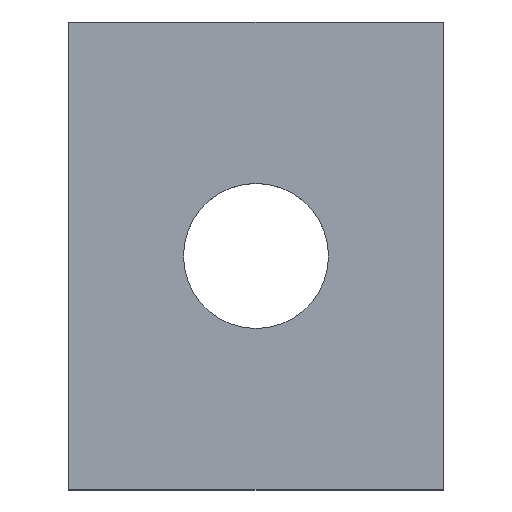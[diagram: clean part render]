
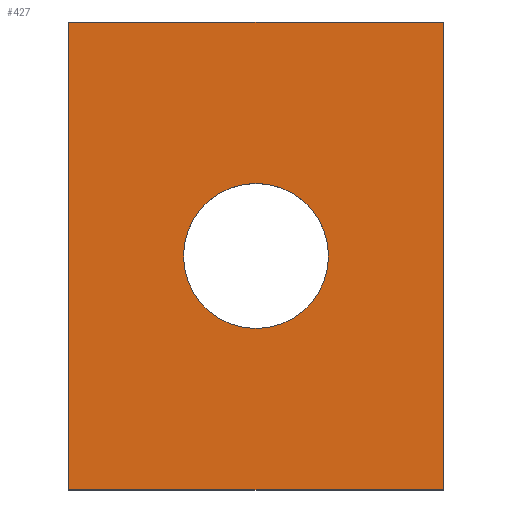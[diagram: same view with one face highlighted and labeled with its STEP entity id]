
A CAD part, top view. The second image highlights one B-rep face of the part: STEP entity #427.
In plain terms, the highlighted planar face has unit normal (0, 0, 1).
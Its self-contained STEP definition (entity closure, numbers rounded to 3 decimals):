
#24 = VERTEX_POINT('',#25);
#25 = CARTESIAN_POINT('',(40.,-50.,12.));
#32 = PLANE('',#33);
#33 = AXIS2_PLACEMENT_3D('',#34,#35,#36);
#34 = CARTESIAN_POINT('',(40.,-50.,0.));
#35 = DIRECTION('',(-0.,1.,-0.));
#36 = DIRECTION('',(1.,0.,0.));
#44 = PLANE('',#45);
#45 = AXIS2_PLACEMENT_3D('',#46,#47,#48);
#46 = CARTESIAN_POINT('',(40.,50.,0.));
#47 = DIRECTION('',(-1.,-0.,-0.));
#48 = DIRECTION('',(0.,1.,0.));
#56 = EDGE_CURVE('',#24,#57,#59,.T.);
#57 = VERTEX_POINT('',#58);
#58 = CARTESIAN_POINT('',(-40.,-50.,12.));
#59 = SURFACE_CURVE('',#60,(#64,#71),.PCURVE_S1.);
#60 = LINE('',#61,#62);
#61 = CARTESIAN_POINT('',(40.,-50.,12.));
#62 = VECTOR('',#63,1.);
#63 = DIRECTION('',(-1.,-0.,-0.));
#64 = PCURVE('',#32,#65);
#65 = DEFINITIONAL_REPRESENTATION('',(#66),#70);
#66 = LINE('',#67,#68);
#67 = CARTESIAN_POINT('',(-0.,-12.));
#68 = VECTOR('',#69,1.);
#69 = DIRECTION('',(-1.,0.));
#70 = ( GEOMETRIC_REPRESENTATION_CONTEXT(2) 
PARAMETRIC_REPRESENTATION_CONTEXT() REPRESENTATION_CONTEXT('2D SPACE',''
  ) );
#71 = PCURVE('',#72,#77);
#72 = PLANE('',#73);
#73 = AXIS2_PLACEMENT_3D('',#74,#75,#76);
#74 = CARTESIAN_POINT('',(0.,0.,12.));
#75 = DIRECTION('',(-0.,-0.,1.));
#76 = DIRECTION('',(1.,0.,0.));
#77 = DEFINITIONAL_REPRESENTATION('',(#78),#82);
#78 = LINE('',#79,#80);
#79 = CARTESIAN_POINT('',(40.,-50.));
#80 = VECTOR('',#81,1.);
#81 = DIRECTION('',(-1.,0.));
#82 = ( GEOMETRIC_REPRESENTATION_CONTEXT(2) 
PARAMETRIC_REPRESENTATION_CONTEXT() REPRESENTATION_CONTEXT('2D SPACE',''
  ) );
#100 = PLANE('',#101);
#101 = AXIS2_PLACEMENT_3D('',#102,#103,#104);
#102 = CARTESIAN_POINT('',(-40.,-50.,0.));
#103 = DIRECTION('',(1.,-0.,-0.));
#104 = DIRECTION('',(0.,-1.,0.));
#142 = EDGE_CURVE('',#57,#143,#145,.T.);
#143 = VERTEX_POINT('',#144);
#144 = CARTESIAN_POINT('',(-40.,50.,12.));
#145 = SURFACE_CURVE('',#146,(#150,#157),.PCURVE_S1.);
#146 = LINE('',#147,#148);
#147 = CARTESIAN_POINT('',(-40.,-50.,12.));
#148 = VECTOR('',#149,1.);
#149 = DIRECTION('',(-0.,1.,-0.));
#150 = PCURVE('',#100,#151);
#151 = DEFINITIONAL_REPRESENTATION('',(#152),#156);
#152 = LINE('',#153,#154);
#153 = CARTESIAN_POINT('',(-0.,-12.));
#154 = VECTOR('',#155,1.);
#155 = DIRECTION('',(-1.,0.));
#156 = ( GEOMETRIC_REPRESENTATION_CONTEXT(2) 
PARAMETRIC_REPRESENTATION_CONTEXT() REPRESENTATION_CONTEXT('2D SPACE',''
  ) );
#157 = PCURVE('',#72,#158);
#158 = DEFINITIONAL_REPRESENTATION('',(#159),#163);
#159 = LINE('',#160,#161);
#160 = CARTESIAN_POINT('',(-40.,-50.));
#161 = VECTOR('',#162,1.);
#162 = DIRECTION('',(-0.,1.));
#163 = ( GEOMETRIC_REPRESENTATION_CONTEXT(2) 
PARAMETRIC_REPRESENTATION_CONTEXT() REPRESENTATION_CONTEXT('2D SPACE',''
  ) );
#181 = PLANE('',#182);
#182 = AXIS2_PLACEMENT_3D('',#183,#184,#185);
#183 = CARTESIAN_POINT('',(-40.,50.,0.));
#184 = DIRECTION('',(-0.,-1.,-0.));
#185 = DIRECTION('',(-1.,0.,0.));
#218 = EDGE_CURVE('',#143,#219,#221,.T.);
#219 = VERTEX_POINT('',#220);
#220 = CARTESIAN_POINT('',(40.,50.,12.));
#221 = SURFACE_CURVE('',#222,(#226,#233),.PCURVE_S1.);
#222 = LINE('',#223,#224);
#223 = CARTESIAN_POINT('',(-40.,50.,12.));
#224 = VECTOR('',#225,1.);
#225 = DIRECTION('',(1.,-0.,-0.));
#226 = PCURVE('',#181,#227);
#227 = DEFINITIONAL_REPRESENTATION('',(#228),#232);
#228 = LINE('',#229,#230);
#229 = CARTESIAN_POINT('',(-0.,-12.));
#230 = VECTOR('',#231,1.);
#231 = DIRECTION('',(-1.,0.));
#232 = ( GEOMETRIC_REPRESENTATION_CONTEXT(2) 
PARAMETRIC_REPRESENTATION_CONTEXT() REPRESENTATION_CONTEXT('2D SPACE',''
  ) );
#233 = PCURVE('',#72,#234);
#234 = DEFINITIONAL_REPRESENTATION('',(#235),#239);
#235 = LINE('',#236,#237);
#236 = CARTESIAN_POINT('',(-40.,50.));
#237 = VECTOR('',#238,1.);
#238 = DIRECTION('',(1.,-0.));
#239 = ( GEOMETRIC_REPRESENTATION_CONTEXT(2) 
PARAMETRIC_REPRESENTATION_CONTEXT() REPRESENTATION_CONTEXT('2D SPACE',''
  ) );
#289 = EDGE_CURVE('',#219,#24,#290,.T.);
#290 = SURFACE_CURVE('',#291,(#295,#302),.PCURVE_S1.);
#291 = LINE('',#292,#293);
#292 = CARTESIAN_POINT('',(40.,50.,12.));
#293 = VECTOR('',#294,1.);
#294 = DIRECTION('',(-0.,-1.,-0.));
#295 = PCURVE('',#44,#296);
#296 = DEFINITIONAL_REPRESENTATION('',(#297),#301);
#297 = LINE('',#298,#299);
#298 = CARTESIAN_POINT('',(-0.,-12.));
#299 = VECTOR('',#300,1.);
#300 = DIRECTION('',(-1.,0.));
#301 = ( GEOMETRIC_REPRESENTATION_CONTEXT(2) 
PARAMETRIC_REPRESENTATION_CONTEXT() REPRESENTATION_CONTEXT('2D SPACE',''
  ) );
#302 = PCURVE('',#72,#303);
#303 = DEFINITIONAL_REPRESENTATION('',(#304),#308);
#304 = LINE('',#305,#306);
#305 = CARTESIAN_POINT('',(40.,50.));
#306 = VECTOR('',#307,1.);
#307 = DIRECTION('',(-0.,-1.));
#308 = ( GEOMETRIC_REPRESENTATION_CONTEXT(2) 
PARAMETRIC_REPRESENTATION_CONTEXT() REPRESENTATION_CONTEXT('2D SPACE',''
  ) );
#338 = VERTEX_POINT('',#339);
#339 = CARTESIAN_POINT('',(-15.5,0.,12.));
#346 = CYLINDRICAL_SURFACE('',#347,15.5);
#347 = AXIS2_PLACEMENT_3D('',#348,#349,#350);
#348 = CARTESIAN_POINT('',(0.,0.,0.));
#349 = DIRECTION('',(0.,-0.,-1.));
#350 = DIRECTION('',(-1.,-0.,-0.));
#365 = EDGE_CURVE('',#338,#338,#366,.T.);
#366 = SURFACE_CURVE('',#367,(#372,#379),.PCURVE_S1.);
#367 = CIRCLE('',#368,15.5);
#368 = AXIS2_PLACEMENT_3D('',#369,#370,#371);
#369 = CARTESIAN_POINT('',(0.,0.,12.));
#370 = DIRECTION('',(0.,0.,-1.));
#371 = DIRECTION('',(-1.,-0.,-0.));
#372 = PCURVE('',#346,#373);
#373 = DEFINITIONAL_REPRESENTATION('',(#374),#378);
#374 = LINE('',#375,#376);
#375 = CARTESIAN_POINT('',(0.,-12.));
#376 = VECTOR('',#377,1.);
#377 = DIRECTION('',(1.,0.));
#378 = ( GEOMETRIC_REPRESENTATION_CONTEXT(2) 
PARAMETRIC_REPRESENTATION_CONTEXT() REPRESENTATION_CONTEXT('2D SPACE',''
  ) );
#379 = PCURVE('',#72,#380);
#380 = DEFINITIONAL_REPRESENTATION('',(#381),#389);
#381 = ( BOUNDED_CURVE() B_SPLINE_CURVE(2,(#382,#383,#384,#385,#386,#387
,#388),.UNSPECIFIED.,.T.,.F.) B_SPLINE_CURVE_WITH_KNOTS((1,2,2,2,2,1),(
    -2.094,0.,2.094,4.189,6.283,
8.378),.UNSPECIFIED.) CURVE() GEOMETRIC_REPRESENTATION_ITEM() 
RATIONAL_B_SPLINE_CURVE((1.,0.5,1.,0.5,1.,0.5,1.)) REPRESENTATION_ITEM(
  '') );
#382 = CARTESIAN_POINT('',(-15.5,0.));
#383 = CARTESIAN_POINT('',(-15.5,26.847));
#384 = CARTESIAN_POINT('',(7.75,13.423));
#385 = CARTESIAN_POINT('',(31.,0.));
#386 = CARTESIAN_POINT('',(7.75,-13.423));
#387 = CARTESIAN_POINT('',(-15.5,-26.847));
#388 = CARTESIAN_POINT('',(-15.5,0.));
#389 = ( GEOMETRIC_REPRESENTATION_CONTEXT(2) 
PARAMETRIC_REPRESENTATION_CONTEXT() REPRESENTATION_CONTEXT('2D SPACE',''
  ) );
#427 = ADVANCED_FACE('',(#428,#434),#72,.T.);
#428 = FACE_BOUND('',#429,.F.);
#429 = EDGE_LOOP('',(#430,#431,#432,#433));
#430 = ORIENTED_EDGE('',*,*,#56,.T.);
#431 = ORIENTED_EDGE('',*,*,#142,.T.);
#432 = ORIENTED_EDGE('',*,*,#218,.T.);
#433 = ORIENTED_EDGE('',*,*,#289,.T.);
#434 = FACE_BOUND('',#435,.T.);
#435 = EDGE_LOOP('',(#436));
#436 = ORIENTED_EDGE('',*,*,#365,.T.);
